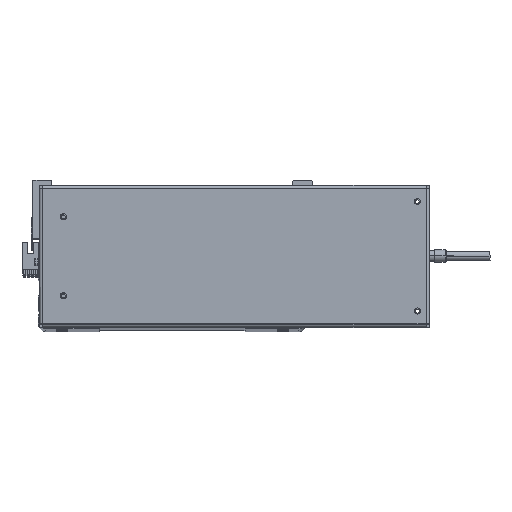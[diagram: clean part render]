
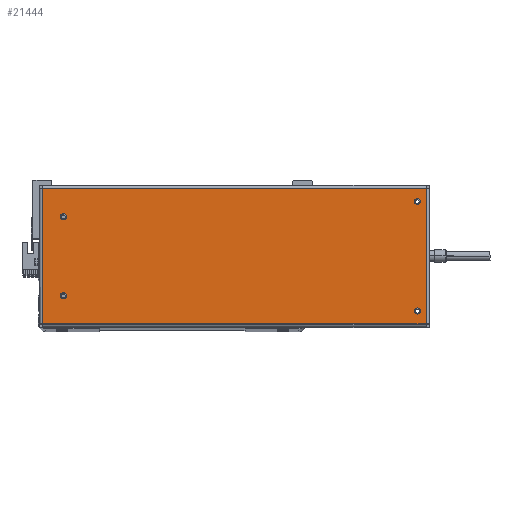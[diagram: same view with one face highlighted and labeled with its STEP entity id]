
A CAD part, top view. The second image highlights one B-rep face of the part: STEP entity #21444.
In plain terms, the highlighted planar face has unit normal (0, 0, 1).
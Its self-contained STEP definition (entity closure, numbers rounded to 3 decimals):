
#425 = ORIENTED_EDGE ( 'NONE', *, *, #9793, .F. ) ;
#488 = EDGE_CURVE ( 'NONE', #9095, #9277, #16024, .T. ) ;
#1026 = VERTEX_POINT ( 'NONE', #10601 ) ;
#1081 = EDGE_CURVE ( 'NONE', #40423, #32068, #22678, .T. ) ;
#1697 = CARTESIAN_POINT ( 'NONE',  ( -143., -32.5, 0. ) ) ;
#2055 = VERTEX_POINT ( 'NONE', #36848 ) ;
#2522 = CARTESIAN_POINT ( 'NONE',  ( 150.5, -45., 0. ) ) ;
#2838 = FACE_BOUND ( 'NONE', #35095, .T. ) ;
#3086 = AXIS2_PLACEMENT_3D ( 'NONE', #9579, #34759, #34480 ) ;
#3188 = CIRCLE ( 'NONE', #16296, 2.5 ) ;
#3617 = CARTESIAN_POINT ( 'NONE',  ( -138., -32.5, 0. ) ) ;
#3786 = LINE ( 'NONE', #16353, #10175 ) ;
#3810 = AXIS2_PLACEMENT_3D ( 'NONE', #10561, #35610, #29147 ) ;
#4342 = CARTESIAN_POINT ( 'NONE',  ( 153., -45., 0. ) ) ;
#4806 = EDGE_CURVE ( 'NONE', #32068, #40423, #40524, .T. ) ;
#4963 = CARTESIAN_POINT ( 'NONE',  ( 157.6, -55.6, 0. ) ) ;
#5934 = CARTESIAN_POINT ( 'NONE',  ( 157.7, 58.5, 0. ) ) ;
#6719 = EDGE_CURVE ( 'NONE', #2055, #36599, #15817, .T. ) ;
#6911 = DIRECTION ( 'NONE',  ( 1., 0., 0. ) ) ;
#7035 = CARTESIAN_POINT ( 'NONE',  ( -138., 32.5, 0. ) ) ;
#7061 = VECTOR ( 'NONE', #39638, 1000. ) ;
#7668 = ORIENTED_EDGE ( 'NONE', *, *, #1081, .F. ) ;
#7863 = DIRECTION ( 'NONE',  ( 0., 0., 1. ) ) ;
#8482 = ORIENTED_EDGE ( 'NONE', *, *, #6719, .T. ) ;
#8610 = DIRECTION ( 'NONE',  ( 1., 0., 0. ) ) ;
#9067 = CIRCLE ( 'NONE', #37352, 2.5 ) ;
#9095 = VERTEX_POINT ( 'NONE', #11952 ) ;
#9277 = VERTEX_POINT ( 'NONE', #4342 ) ;
#9380 = EDGE_CURVE ( 'NONE', #37951, #20177, #3188, .T. ) ;
#9579 = CARTESIAN_POINT ( 'NONE',  ( -140.5, 32.5, 0. ) ) ;
#9793 = EDGE_CURVE ( 'NONE', #9277, #9095, #9067, .T. ) ;
#10175 = VECTOR ( 'NONE', #15926, 1000. ) ;
#10239 = FACE_BOUND ( 'NONE', #10422, .T. ) ;
#10335 = CARTESIAN_POINT ( 'NONE',  ( 148., 45., 0. ) ) ;
#10422 = EDGE_LOOP ( 'NONE', ( #11698, #37243 ) ) ;
#10526 = LINE ( 'NONE', #4963, #7061 ) ;
#10561 = CARTESIAN_POINT ( 'NONE',  ( -140.5, -32.5, 0. ) ) ;
#10570 = CARTESIAN_POINT ( 'NONE',  ( 157.6, -55.6, 0. ) ) ;
#10601 = CARTESIAN_POINT ( 'NONE',  ( -157.6, -55.6, 0. ) ) ;
#10778 = EDGE_CURVE ( 'NONE', #32828, #29047, #24239, .T. ) ;
#11213 = AXIS2_PLACEMENT_3D ( 'NONE', #5934, #37646, #25249 ) ;
#11331 = DIRECTION ( 'NONE',  ( 1., 0., 0. ) ) ;
#11698 = ORIENTED_EDGE ( 'NONE', *, *, #36344, .F. ) ;
#11907 = CARTESIAN_POINT ( 'NONE',  ( -140.5, -32.5, 0. ) ) ;
#11952 = CARTESIAN_POINT ( 'NONE',  ( 148., -45., 0. ) ) ;
#12455 = PLANE ( 'NONE',  #11213 ) ;
#13386 = AXIS2_PLACEMENT_3D ( 'NONE', #2522, #28116, #27989 ) ;
#15622 = EDGE_CURVE ( 'NONE', #1026, #25152, #27260, .T. ) ;
#15817 = LINE ( 'NONE', #16073, #32511 ) ;
#15926 = DIRECTION ( 'NONE',  ( 0., -1., 0. ) ) ;
#16024 = CIRCLE ( 'NONE', #13386, 2.5 ) ;
#16073 = CARTESIAN_POINT ( 'NONE',  ( 157.7, 55.6, 0. ) ) ;
#16222 = FACE_BOUND ( 'NONE', #29098, .T. ) ;
#16296 = AXIS2_PLACEMENT_3D ( 'NONE', #11907, #21311, #8610 ) ;
#16353 = CARTESIAN_POINT ( 'NONE',  ( -157.6, 55.6, 0. ) ) ;
#16839 = EDGE_LOOP ( 'NONE', ( #36135, #39422, #36581, #8482 ) ) ;
#17793 = DIRECTION ( 'NONE',  ( 0., 0., 1. ) ) ;
#19787 = CARTESIAN_POINT ( 'NONE',  ( -157.7, -55.6, 0. ) ) ;
#20177 = VERTEX_POINT ( 'NONE', #3617 ) ;
#20475 = DIRECTION ( 'NONE',  ( 0., 0., 1. ) ) ;
#20832 = DIRECTION ( 'NONE',  ( 1., 0., 0. ) ) ;
#20944 = CARTESIAN_POINT ( 'NONE',  ( 150.5, 45., 0. ) ) ;
#21311 = DIRECTION ( 'NONE',  ( 0., 0., 1. ) ) ;
#21444 = ADVANCED_FACE ( 'NONE', ( #10239, #36846, #2838, #16222, #28495 ), #12455, .F. ) ;
#22380 = AXIS2_PLACEMENT_3D ( 'NONE', #20944, #27078, #33113 ) ;
#22678 = CIRCLE ( 'NONE', #22380, 2.5 ) ;
#23718 = CARTESIAN_POINT ( 'NONE',  ( -140.5, 32.5, 0. ) ) ;
#23829 = EDGE_CURVE ( 'NONE', #25152, #2055, #10526, .T. ) ;
#24022 = AXIS2_PLACEMENT_3D ( 'NONE', #33281, #17793, #20832 ) ;
#24239 = CIRCLE ( 'NONE', #3086, 2.5 ) ;
#24323 = CARTESIAN_POINT ( 'NONE',  ( 153., 45., 0. ) ) ;
#24591 = CARTESIAN_POINT ( 'NONE',  ( -143., 32.5, 0. ) ) ;
#24773 = ORIENTED_EDGE ( 'NONE', *, *, #10778, .F. ) ;
#25152 = VERTEX_POINT ( 'NONE', #10570 ) ;
#25249 = DIRECTION ( 'NONE',  ( -1., 0., 0. ) ) ;
#25493 = EDGE_CURVE ( 'NONE', #29047, #32828, #29099, .T. ) ;
#25669 = DIRECTION ( 'NONE',  ( -1., 0., 0. ) ) ;
#25686 = ORIENTED_EDGE ( 'NONE', *, *, #4806, .F. ) ;
#26707 = ORIENTED_EDGE ( 'NONE', *, *, #25493, .F. ) ;
#27078 = DIRECTION ( 'NONE',  ( 0., 0., 1. ) ) ;
#27260 = LINE ( 'NONE', #19787, #33636 ) ;
#27989 = DIRECTION ( 'NONE',  ( 1., 0., 0. ) ) ;
#28116 = DIRECTION ( 'NONE',  ( 0., 0., 1. ) ) ;
#28210 = AXIS2_PLACEMENT_3D ( 'NONE', #23718, #7863, #29920 ) ;
#28493 = EDGE_LOOP ( 'NONE', ( #26707, #24773 ) ) ;
#28495 = FACE_OUTER_BOUND ( 'NONE', #16839, .T. ) ;
#29047 = VERTEX_POINT ( 'NONE', #7035 ) ;
#29098 = EDGE_LOOP ( 'NONE', ( #7668, #25686 ) ) ;
#29099 = CIRCLE ( 'NONE', #28210, 2.5 ) ;
#29147 = DIRECTION ( 'NONE',  ( 1., 0., 0. ) ) ;
#29920 = DIRECTION ( 'NONE',  ( 1., 0., 0. ) ) ;
#31656 = CIRCLE ( 'NONE', #3810, 2.5 ) ;
#32068 = VERTEX_POINT ( 'NONE', #10335 ) ;
#32511 = VECTOR ( 'NONE', #25669, 1000. ) ;
#32828 = VERTEX_POINT ( 'NONE', #24591 ) ;
#33113 = DIRECTION ( 'NONE',  ( 1., 0., 0. ) ) ;
#33281 = CARTESIAN_POINT ( 'NONE',  ( 150.5, 45., 0. ) ) ;
#33636 = VECTOR ( 'NONE', #6911, 1000. ) ;
#34480 = DIRECTION ( 'NONE',  ( 1., 0., 0. ) ) ;
#34731 = ORIENTED_EDGE ( 'NONE', *, *, #488, .F. ) ;
#34759 = DIRECTION ( 'NONE',  ( 0., 0., 1. ) ) ;
#35095 = EDGE_LOOP ( 'NONE', ( #425, #34731 ) ) ;
#35610 = DIRECTION ( 'NONE',  ( 0., 0., 1. ) ) ;
#36135 = ORIENTED_EDGE ( 'NONE', *, *, #40063, .T. ) ;
#36344 = EDGE_CURVE ( 'NONE', #20177, #37951, #31656, .T. ) ;
#36548 = CARTESIAN_POINT ( 'NONE',  ( -157.6, 55.6, 0. ) ) ;
#36581 = ORIENTED_EDGE ( 'NONE', *, *, #23829, .T. ) ;
#36599 = VERTEX_POINT ( 'NONE', #36548 ) ;
#36846 = FACE_BOUND ( 'NONE', #28493, .T. ) ;
#36848 = CARTESIAN_POINT ( 'NONE',  ( 157.6, 55.6, 0. ) ) ;
#37243 = ORIENTED_EDGE ( 'NONE', *, *, #9380, .F. ) ;
#37352 = AXIS2_PLACEMENT_3D ( 'NONE', #39368, #20475, #11331 ) ;
#37646 = DIRECTION ( 'NONE',  ( 0., 0., -1. ) ) ;
#37951 = VERTEX_POINT ( 'NONE', #1697 ) ;
#39368 = CARTESIAN_POINT ( 'NONE',  ( 150.5, -45., 0. ) ) ;
#39422 = ORIENTED_EDGE ( 'NONE', *, *, #15622, .T. ) ;
#39638 = DIRECTION ( 'NONE',  ( 0., 1., 0. ) ) ;
#40063 = EDGE_CURVE ( 'NONE', #36599, #1026, #3786, .T. ) ;
#40423 = VERTEX_POINT ( 'NONE', #24323 ) ;
#40524 = CIRCLE ( 'NONE', #24022, 2.5 ) ;
